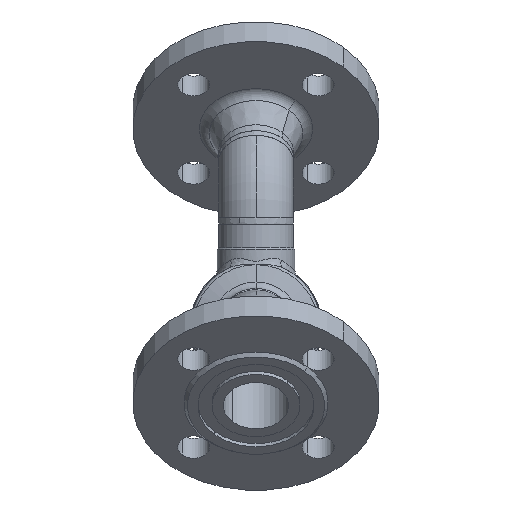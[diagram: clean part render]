
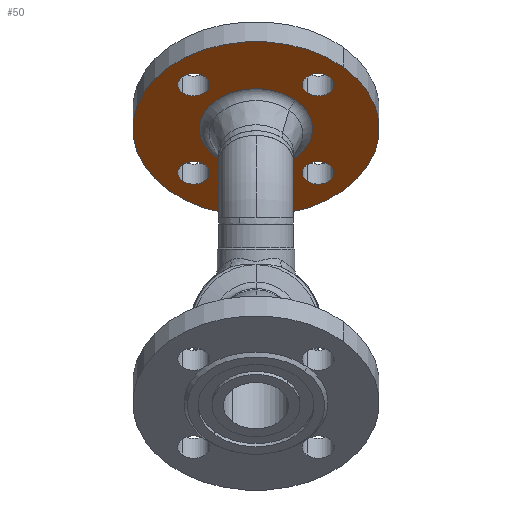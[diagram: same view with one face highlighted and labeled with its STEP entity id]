
A CAD part, front view. The second image highlights one B-rep face of the part: STEP entity #50.
In plain terms, the highlighted planar face has unit normal (0, -0.707, -0.707) as drawn and (0, 1, 0) by its records, which use the part's own axes.
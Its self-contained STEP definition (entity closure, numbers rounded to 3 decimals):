
#50 = ADVANCED_FACE ( 'NONE', ( #33744, #33745, #33746, #33747, #33748, #33749 ), #33799, .F. ) ;
#33744 = FACE_BOUND ( 'NONE', #51638, .T. ) ;
#33745 = FACE_BOUND ( 'NONE', #25828, .T. ) ;
#33746 = FACE_BOUND ( 'NONE', #20963, .T. ) ;
#33747 = FACE_BOUND ( 'NONE', #41153, .T. ) ;
#33748 = FACE_BOUND ( 'NONE', #40755, .T. ) ;
#33749 = FACE_OUTER_BOUND ( 'NONE', #25981, .T. ) ;
#33799 = PLANE ( 'NONE',  #33800 ) ;
#33800 = AXIS2_PLACEMENT_3D ( 'NONE', #33801, #33802, #33803 ) ;
#33801 = CARTESIAN_POINT ( 'NONE',  ( 70., 18., 0. ) ) ;
#33802 = DIRECTION ( 'NONE',  ( 0., -1., 0. ) ) ;
#33803 = DIRECTION ( 'NONE',  ( 1., 0., 0. ) ) ;
#1093 = EDGE_CURVE ( 'NONE', #26929, #3421, #43493, .T. ) ;
#1179 = CIRCLE ( 'NONE', #1180, 70. ) ;
#1180 = AXIS2_PLACEMENT_3D ( 'NONE', #1181, #1182, #1183 ) ;
#1181 = CARTESIAN_POINT ( 'NONE',  ( 0., 18., 0. ) ) ;
#1182 = DIRECTION ( 'NONE',  ( 0., 1., 0. ) ) ;
#1183 = DIRECTION ( 'NONE',  ( -1., 0., 0. ) ) ;
#1576 = CARTESIAN_POINT ( 'NONE',  ( -9., 18., -50. ) ) ;
#2168 = CIRCLE ( 'NONE', #2169, 9. ) ;
#2169 = AXIS2_PLACEMENT_3D ( 'NONE', #2170, #2171, #2172 ) ;
#2170 = CARTESIAN_POINT ( 'NONE',  ( 0., 18., -50. ) ) ;
#2171 = DIRECTION ( 'NONE',  ( 0., 1., 0. ) ) ;
#2172 = DIRECTION ( 'NONE',  ( 0., 0., 1. ) ) ;
#18853 = CARTESIAN_POINT ( 'NONE',  ( -70., 18., 0. ) ) ;
#51638 = EDGE_LOOP ( 'NONE', ( #28767, #26480 ) ) ;
#2672 = CIRCLE ( 'NONE', #2673, 9. ) ;
#2673 = AXIS2_PLACEMENT_3D ( 'NONE', #2674, #2675, #2676 ) ;
#2674 = CARTESIAN_POINT ( 'NONE',  ( -50., 18., 0. ) ) ;
#2675 = DIRECTION ( 'NONE',  ( 0., 1., 0. ) ) ;
#2676 = DIRECTION ( 'NONE',  ( 1., 0., 0. ) ) ;
#19115 = EDGE_CURVE ( 'NONE', #11268, #13250, #11528, .T. ) ;
#19260 = VERTEX_POINT ( 'NONE', #24252 ) ;
#19563 = ORIENTED_EDGE ( 'NONE', *, *, #19115, .F. ) ;
#19604 = CARTESIAN_POINT ( 'NONE',  ( 9., 18., 50. ) ) ;
#3421 = VERTEX_POINT ( 'NONE', #44679 ) ;
#3514 = CARTESIAN_POINT ( 'NONE',  ( -9., 18., 50. ) ) ;
#20058 = EDGE_CURVE ( 'NONE', #19260, #29260, #25446, .T. ) ;
#4197 = CIRCLE ( 'NONE', #4198, 9. ) ;
#4198 = AXIS2_PLACEMENT_3D ( 'NONE', #4199, #4200, #4201 ) ;
#4199 = CARTESIAN_POINT ( 'NONE',  ( 50., 18., 0. ) ) ;
#4200 = DIRECTION ( 'NONE',  ( 0., 1., 0. ) ) ;
#4201 = DIRECTION ( 'NONE',  ( -1., 0., 0. ) ) ;
#20963 = EDGE_LOOP ( 'NONE', ( #19563, #41794 ) ) ;
#21607 = ORIENTED_EDGE ( 'NONE', *, *, #6834, .F. ) ;
#38123 = ORIENTED_EDGE ( 'NONE', *, *, #27524, .F. ) ;
#21938 = CIRCLE ( 'NONE', #21939, 70. ) ;
#21939 = AXIS2_PLACEMENT_3D ( 'NONE', #21940, #21941, #21942 ) ;
#21940 = CARTESIAN_POINT ( 'NONE',  ( 0., 18., 0. ) ) ;
#21941 = DIRECTION ( 'NONE',  ( 0., 1., 0. ) ) ;
#21942 = DIRECTION ( 'NONE',  ( -1., 0., 0. ) ) ;
#22000 = CARTESIAN_POINT ( 'NONE',  ( 70., 18., 0. ) ) ;
#22203 = EDGE_CURVE ( 'NONE', #42443, #12710, #1179, .T. ) ;
#38580 = EDGE_CURVE ( 'NONE', #29260, #19260, #4197, .T. ) ;
#22500 = VERTEX_POINT ( 'NONE', #1576 ) ;
#6187 = VERTEX_POINT ( 'NONE', #11376 ) ;
#39368 = ORIENTED_EDGE ( 'NONE', *, *, #1093, .F. ) ;
#23095 = EDGE_CURVE ( 'NONE', #6187, #22500, #2168, .T. ) ;
#23194 = ORIENTED_EDGE ( 'NONE', *, *, #22203, .T. ) ;
#6834 = EDGE_CURVE ( 'NONE', #31199, #46015, #24651, .T. ) ;
#6980 = EDGE_CURVE ( 'NONE', #13250, #11268, #24796, .T. ) ;
#39763 = ORIENTED_EDGE ( 'NONE', *, *, #38580, .F. ) ;
#23446 = EDGE_CURVE ( 'NONE', #46015, #31199, #2672, .T. ) ;
#24245 = CARTESIAN_POINT ( 'NONE',  ( -59., 18., 0. ) ) ;
#24252 = CARTESIAN_POINT ( 'NONE',  ( 59., 18., 0. ) ) ;
#40755 = EDGE_LOOP ( 'NONE', ( #39368, #38123 ) ) ;
#24442 = ORIENTED_EDGE ( 'NONE', *, *, #23446, .F. ) ;
#24588 = ORIENTED_EDGE ( 'NONE', *, *, #42391, .T. ) ;
#24651 = CIRCLE ( 'NONE', #24652, 9. ) ;
#24652 = AXIS2_PLACEMENT_3D ( 'NONE', #24653, #24654, #24687 ) ;
#24653 = CARTESIAN_POINT ( 'NONE',  ( -50., 18., 0. ) ) ;
#24654 = DIRECTION ( 'NONE',  ( 0., 1., 0. ) ) ;
#24687 = DIRECTION ( 'NONE',  ( 1., 0., 0. ) ) ;
#41153 = EDGE_LOOP ( 'NONE', ( #39763, #41397 ) ) ;
#24796 = CIRCLE ( 'NONE', #24797, 9. ) ;
#24797 = AXIS2_PLACEMENT_3D ( 'NONE', #24798, #24799, #24800 ) ;
#24798 = CARTESIAN_POINT ( 'NONE',  ( 0., 18., 50. ) ) ;
#24799 = DIRECTION ( 'NONE',  ( 0., 1., 0. ) ) ;
#24800 = DIRECTION ( 'NONE',  ( 0., 0., -1. ) ) ;
#41397 = ORIENTED_EDGE ( 'NONE', *, *, #20058, .F. ) ;
#41794 = ORIENTED_EDGE ( 'NONE', *, *, #6980, .F. ) ;
#25446 = CIRCLE ( 'NONE', #25447, 9. ) ;
#25447 = AXIS2_PLACEMENT_3D ( 'NONE', #25448, #25482, #25483 ) ;
#25448 = CARTESIAN_POINT ( 'NONE',  ( 50., 18., 0. ) ) ;
#25482 = DIRECTION ( 'NONE',  ( 0., 1., 0. ) ) ;
#25483 = DIRECTION ( 'NONE',  ( -1., 0., 0. ) ) ;
#25828 = EDGE_LOOP ( 'NONE', ( #24442, #21607 ) ) ;
#25981 = EDGE_LOOP ( 'NONE', ( #24588, #23194 ) ) ;
#42391 = EDGE_CURVE ( 'NONE', #12710, #42443, #21938, .T. ) ;
#42443 = VERTEX_POINT ( 'NONE', #22000 ) ;
#26480 = ORIENTED_EDGE ( 'NONE', *, *, #23095, .F. ) ;
#10381 = CARTESIAN_POINT ( 'NONE',  ( -41., 18., 0. ) ) ;
#26929 = VERTEX_POINT ( 'NONE', #43699 ) ;
#43493 = CIRCLE ( 'NONE', #43494, 32.147 ) ;
#43494 = AXIS2_PLACEMENT_3D ( 'NONE', #43495, #43496, #43497 ) ;
#43495 = CARTESIAN_POINT ( 'NONE',  ( 0., 18., 0. ) ) ;
#43496 = DIRECTION ( 'NONE',  ( 0., 1., 0. ) ) ;
#43497 = DIRECTION ( 'NONE',  ( -1., 0., 0. ) ) ;
#43699 = CARTESIAN_POINT ( 'NONE',  ( -32.147, 18., 0. ) ) ;
#27524 = EDGE_CURVE ( 'NONE', #3421, #26929, #44290, .T. ) ;
#11268 = VERTEX_POINT ( 'NONE', #3514 ) ;
#11376 = CARTESIAN_POINT ( 'NONE',  ( 9., 18., -50. ) ) ;
#27874 = EDGE_CURVE ( 'NONE', #22500, #6187, #44478, .T. ) ;
#11528 = CIRCLE ( 'NONE', #11529, 9. ) ;
#11529 = AXIS2_PLACEMENT_3D ( 'NONE', #11530, #11531, #11532 ) ;
#11530 = CARTESIAN_POINT ( 'NONE',  ( 0., 18., 50. ) ) ;
#11531 = DIRECTION ( 'NONE',  ( 0., 1., 0. ) ) ;
#11532 = DIRECTION ( 'NONE',  ( 0., 0., -1. ) ) ;
#44290 = CIRCLE ( 'NONE', #44291, 32.147 ) ;
#44291 = AXIS2_PLACEMENT_3D ( 'NONE', #44292, #44293, #44294 ) ;
#44292 = CARTESIAN_POINT ( 'NONE',  ( 0., 18., 0. ) ) ;
#44293 = DIRECTION ( 'NONE',  ( 0., 1., 0. ) ) ;
#44294 = DIRECTION ( 'NONE',  ( -1., 0., 0. ) ) ;
#44478 = CIRCLE ( 'NONE', #44479, 9. ) ;
#44479 = AXIS2_PLACEMENT_3D ( 'NONE', #44480, #44481, #44482 ) ;
#44480 = CARTESIAN_POINT ( 'NONE',  ( 0., 18., -50. ) ) ;
#44481 = DIRECTION ( 'NONE',  ( 0., 1., 0. ) ) ;
#44482 = DIRECTION ( 'NONE',  ( 0., 0., 1. ) ) ;
#44679 = CARTESIAN_POINT ( 'NONE',  ( 32.147, 18., 0. ) ) ;
#44988 = CARTESIAN_POINT ( 'NONE',  ( 41., 18., 0. ) ) ;
#28767 = ORIENTED_EDGE ( 'NONE', *, *, #27874, .F. ) ;
#12710 = VERTEX_POINT ( 'NONE', #18853 ) ;
#29260 = VERTEX_POINT ( 'NONE', #44988 ) ;
#46015 = VERTEX_POINT ( 'NONE', #24245 ) ;
#13250 = VERTEX_POINT ( 'NONE', #19604 ) ;
#31199 = VERTEX_POINT ( 'NONE', #10381 ) ;
